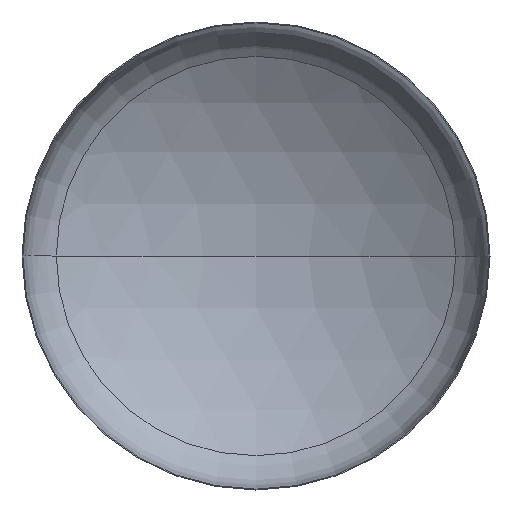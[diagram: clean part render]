
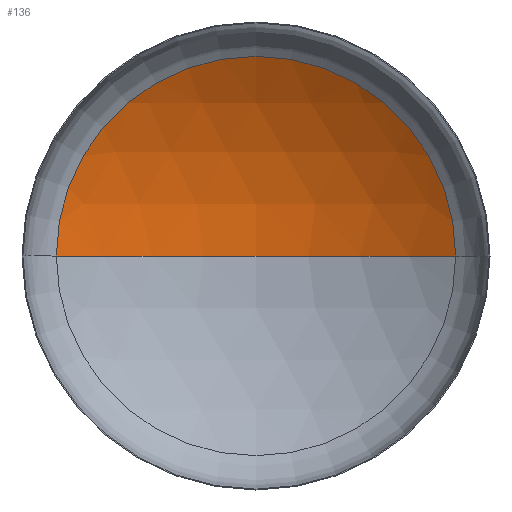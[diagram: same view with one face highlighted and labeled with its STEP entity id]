
A CAD part, front view. The second image highlights one B-rep face of the part: STEP entity #136.
In plain terms, the highlighted spherical face has radius 2560 mm.
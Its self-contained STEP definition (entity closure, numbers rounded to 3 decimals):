
#22 = CIRCLE ( 'NONE', #263, 1365.333 ) ;
#31 = CARTESIAN_POINT ( 'NONE',  ( 0., -1731.024, 0. ) ) ;
#37 = ORIENTED_EDGE ( 'NONE', *, *, #268, .F. ) ;
#60 = VERTEX_POINT ( 'NONE', #400 ) ;
#87 = ORIENTED_EDGE ( 'NONE', *, *, #250, .T. ) ;
#91 = EDGE_LOOP ( 'NONE', ( #37, #87, #115 ) ) ;
#101 = VERTEX_POINT ( 'NONE', #251 ) ;
#105 = DIRECTION ( 'NONE',  ( -1., 0., 0. ) ) ;
#115 = ORIENTED_EDGE ( 'NONE', *, *, #213, .T. ) ;
#118 = VERTEX_POINT ( 'NONE', #349 ) ;
#135 = DIRECTION ( 'NONE',  ( 0., 0., -1. ) ) ;
#136 = ADVANCED_FACE ( 'NONE', ( #300 ), #308, .F. ) ;
#162 = CARTESIAN_POINT ( 'NONE',  ( 0., -1731.024, 0. ) ) ;
#197 = DIRECTION ( 'NONE',  ( -1., 0., 0. ) ) ;
#205 = CIRCLE ( 'NONE', #343, 2560. ) ;
#207 = AXIS2_PLACEMENT_3D ( 'NONE', #162, #135, #197 ) ;
#208 = DIRECTION ( 'NONE',  ( 0., 0., 1. ) ) ;
#213 = EDGE_CURVE ( 'NONE', #60, #118, #22, .T. ) ;
#234 = DIRECTION ( 'NONE',  ( 0., -1., 0. ) ) ;
#250 = EDGE_CURVE ( 'NONE', #101, #60, #205, .T. ) ;
#251 = CARTESIAN_POINT ( 'NONE',  ( 0., 828.976, 0. ) ) ;
#263 = AXIS2_PLACEMENT_3D ( 'NONE', #382, #234, #405 ) ;
#268 = EDGE_CURVE ( 'NONE', #101, #118, #274, .T. ) ;
#274 = CIRCLE ( 'NONE', #373, 2560. ) ;
#277 = DIRECTION ( 'NONE',  ( 0., 0., -1. ) ) ;
#300 = FACE_OUTER_BOUND ( 'NONE', #91, .T. ) ;
#308 = SPHERICAL_SURFACE ( 'NONE', #207, 2560. ) ;
#310 = DIRECTION ( 'NONE',  ( 1., 0., 0. ) ) ;
#343 = AXIS2_PLACEMENT_3D ( 'NONE', #31, #277, #105 ) ;
#349 = CARTESIAN_POINT ( 'NONE',  ( -1365.333, 434.494, 0. ) ) ;
#356 = CARTESIAN_POINT ( 'NONE',  ( 0., -1731.024, 0. ) ) ;
#373 = AXIS2_PLACEMENT_3D ( 'NONE', #356, #208, #310 ) ;
#382 = CARTESIAN_POINT ( 'NONE',  ( 0., 434.494, 0. ) ) ;
#400 = CARTESIAN_POINT ( 'NONE',  ( 1365.333, 434.494, 0. ) ) ;
#405 = DIRECTION ( 'NONE',  ( 1., 0., 0. ) ) ;
